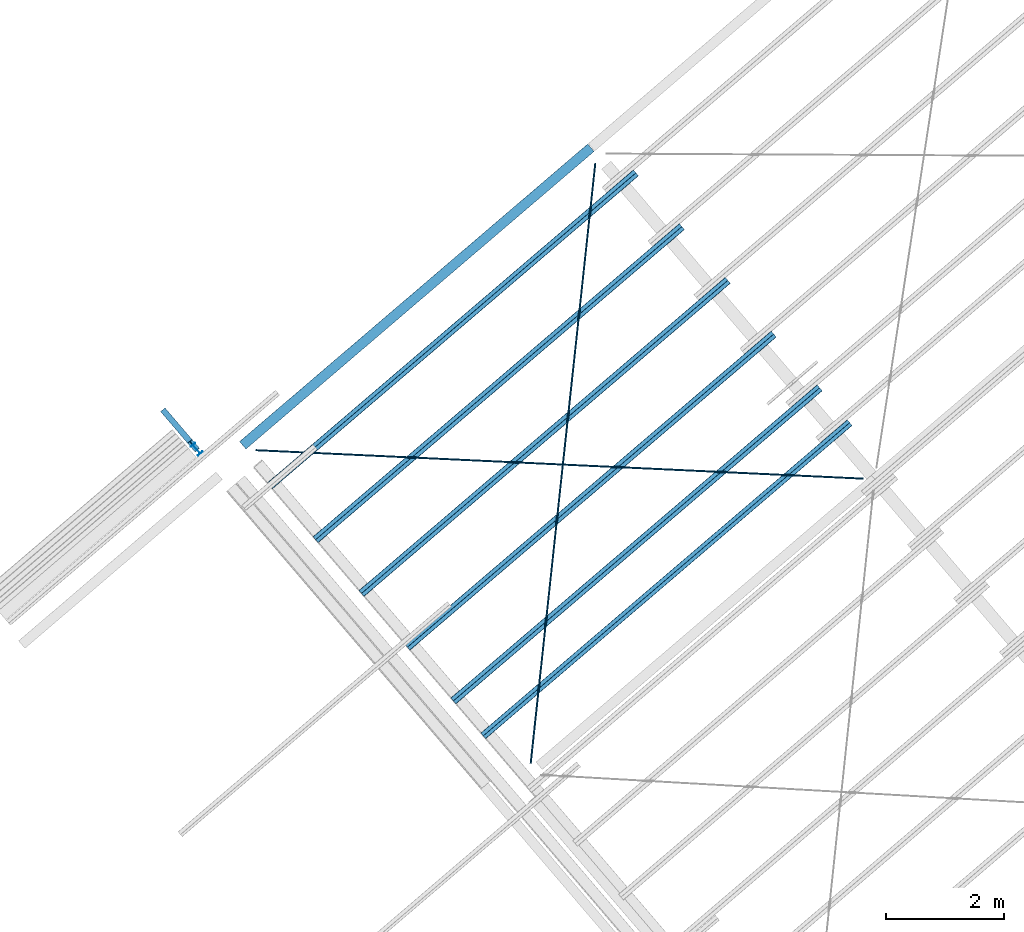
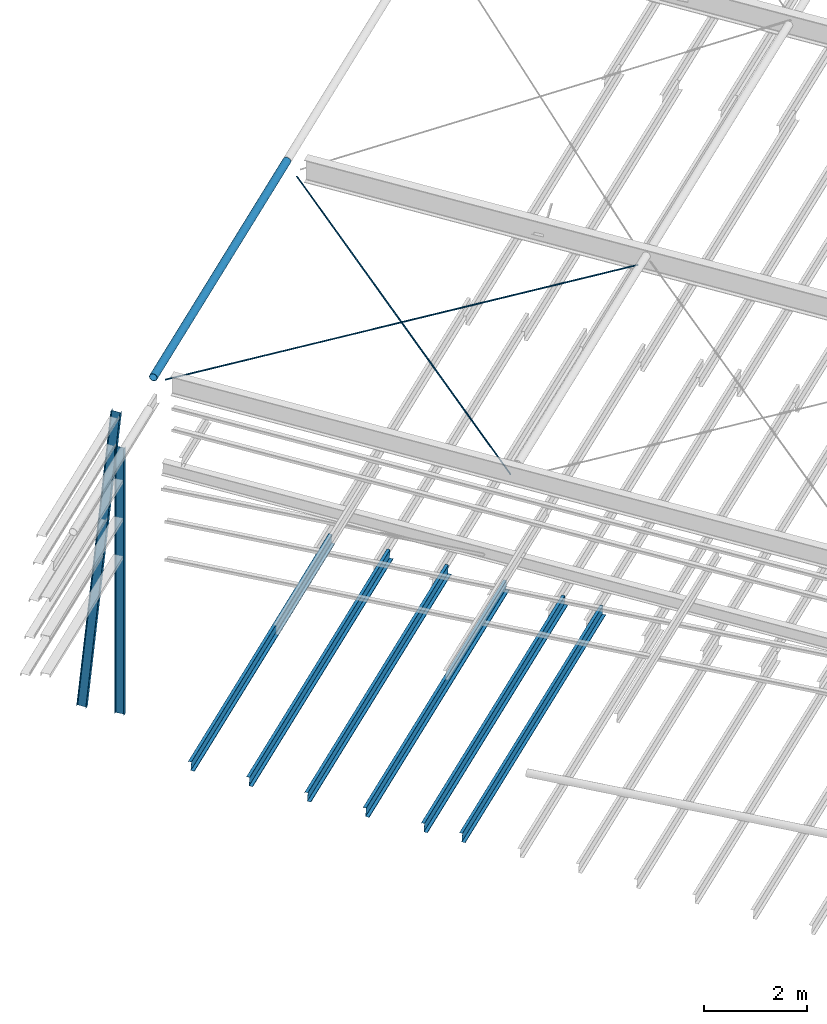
# One storey, part 9 of 25: 11 beams, 2 elements without a shape of their own.
"""IFC2X3 building model written with IfcOpenShell, lengths in millimetres."""

import ifcopenshell
import ifcopenshell.guid

model = None  # the IFC model being written
_history = None  # IfcOwnerHistory: only IFC2X3 demands one
_inside = {}  # id of a spatial element -> (the spatial element, [elements in it])
_under = {}  # id of a project, library or spatial element -> (it, [spatial elements below it])
_declared = {}  # id of a project -> (the project, [libraries it declares])
_typed = {}  # id of a type object -> (the type object, [elements of that type])
_made_of = {}  # id of a material, layer set ... -> (it, [elements and type objects made of it])


def new_model(schema):
    """Start an empty IFC model of exactly this schema.

    Asked for "IFC4X3", IfcOpenShell would pick the latest addendum, in which some entities
    have other attributes; the version numbers below select the first issue.
    IFC2X3 requires an IfcOwnerHistory on every rooted entity: one is made here for all.
    """
    global model, _history
    if schema == "IFC4X3":
        model = ifcopenshell.file(schema_version=(4, 3, 0, 0))
    else:
        model = ifcopenshell.file(schema=schema)
    _inside.clear()
    _under.clear()
    _declared.clear()
    _typed.clear()
    _made_of.clear()
    _history = None
    if model.schema == "IFC2X3":
        org = make("IfcOrganization", Name="unknown")
        user = make(
            "IfcPersonAndOrganization",
            ThePerson=make("IfcPerson", FamilyName="unknown"),
            TheOrganization=org,
        )
        app = make(
            "IfcApplication",
            ApplicationDeveloper=org,
            Version="unknown",
            ApplicationFullName="unknown",
            ApplicationIdentifier="unknown",
        )
        _history = make(
            "IfcOwnerHistory",
            OwningUser=user,
            OwningApplication=app,
            ChangeAction="ADDED",
            CreationDate=0,
        )
    return model


def make(cls, **values):
    """One entity of the class cls with the attributes given. An attribute that is None is left unset."""
    return model.create_entity(
        cls, **{name: value for name, value in values.items() if value is not None}
    )


def entity(cls, *values):
    """Any entity or typed value of the class cls, its attributes in the order of the schema. None: left unset."""
    e = model.create_entity(cls)
    for i, value in enumerate(values):
        if value is not None:
            e[i] = value
    return e


def rooted(cls, **values):
    """An entity with a GlobalId (a new one), such as an element, a storey or a relation."""
    return make(cls, GlobalId=ifcopenshell.guid.new(), OwnerHistory=_history, **values)


def si_unit(unit_type, name, prefix=None):
    """IfcSIUnit, for example si_unit("LENGTHUNIT", "METRE", prefix="MILLI")."""
    return make("IfcSIUnit", UnitType=unit_type, Prefix=prefix, Name=name)


def converted_unit(unit_type, name, factor, base, dimensions=None, offset=None):
    """IfcConversionBasedUnit, such as the inch: factor (a typed value) times the base unit."""
    return make(
        "IfcConversionBasedUnit"
        if offset is None
        else "IfcConversionBasedUnitWithOffset",
        ConversionOffset=offset,
        Dimensions=None
        if dimensions is None
        else entity("IfcDimensionalExponents", *dimensions),
        UnitType=unit_type,
        Name=name,
        ConversionFactor=make(
            "IfcMeasureWithUnit", ValueComponent=factor, UnitComponent=base
        ),
    )


def derived_unit(unit_type, elements):
    """IfcDerivedUnit: a product of units, each with its exponent."""
    return make(
        "IfcDerivedUnit",
        Elements=[
            make("IfcDerivedUnitElement", Unit=unit, Exponent=power)
            for unit, power in elements
        ],
        UnitType=unit_type,
    )


def assignment(units):
    """IfcUnitAssignment: the units of a project."""
    return None if units is None else make("IfcUnitAssignment", Units=units)


def point(xyz):
    """IfcCartesianPoint."""
    return None if xyz is None else make("IfcCartesianPoint", Coordinates=xyz)


def direction(xyz):
    """IfcDirection."""
    return None if xyz is None else make("IfcDirection", DirectionRatios=xyz)


def frame(location, z_axis=None, x_axis=None):
    """IfcAxis2Placement3D, a coordinate frame: its origin and axes. An axis left out is left unset."""
    return make(
        "IfcAxis2Placement3D",
        Location=point(location),
        Axis=direction(z_axis),
        RefDirection=direction(x_axis),
    )


def frame_2d(location, x_axis=None):
    """IfcAxis2Placement2D, a coordinate frame in the plane: its origin and x axis."""
    return make(
        "IfcAxis2Placement2D", Location=point(location), RefDirection=direction(x_axis)
    )


def origin():
    """The frame at (0, 0, 0) with its axes left unset."""
    return frame((0.0, 0.0, 0.0))


def origin_2d_with_axis():
    """The frame at (0, 0) in the plane with the x axis (1, 0) written out."""
    return frame_2d((0.0, 0.0), x_axis=(1.0, 0.0))


def place(relative_to, where):
    """IfcLocalPlacement: puts the frame where relative to a parent placement (None: the world)."""
    return make(
        "IfcLocalPlacement", PlacementRelTo=relative_to, RelativePlacement=where
    )


def context(
    kind, dimensions, precision=None, world=None, true_north=None, identifier=None
):
    """IfcGeometricRepresentationContext, for example the 3D "Model" context."""
    return make(
        "IfcGeometricRepresentationContext",
        ContextIdentifier=identifier,
        ContextType=kind,
        CoordinateSpaceDimension=dimensions,
        Precision=precision,
        WorldCoordinateSystem=world,
        TrueNorth=true_north,
    )


def subcontext(parent, identifier, kind, view, scale=None):
    """IfcGeometricRepresentationSubContext, for example "Body" below "Model"."""
    return make(
        "IfcGeometricRepresentationSubContext",
        ContextIdentifier=identifier,
        ContextType=kind,
        ParentContext=parent,
        TargetScale=scale,
        TargetView=view,
    )


def project(units=None, contexts=None):
    """IfcProject with its units and contexts."""
    return rooted(
        "IfcProject",
        Name="project",
        RepresentationContexts=contexts,
        UnitsInContext=assignment(units),
    )


def spatial(cls, under=None, at=None, **own):
    """A site, building, storey or space (cls), placed at a placement, below another one or the project."""
    s = rooted(cls, ObjectPlacement=at, **own)
    if under is not None:
        _under.setdefault(under.id(), (under, []))[1].append(s)
    return s


def polyline(points):
    """IfcPolyline through the points."""
    return make("IfcPolyline", Points=[point(p) for p in points])


def circle_curve(where, radius):
    """IfcCircle in the frame where."""
    return make("IfcCircle", Position=where, Radius=radius)


def parameter(value):
    """IfcParameterValue: where a trimmed curve begins or ends, as a parameter of its basis curve."""
    return model.create_entity("IfcParameterValue", value)


def trimmed(basis, trim1, trim2, sense, master):
    """IfcTrimmedCurve: the piece of a basis curve between two trims."""
    return make(
        "IfcTrimmedCurve",
        BasisCurve=basis,
        Trim1=trim1,
        Trim2=trim2,
        SenseAgreement=sense,
        MasterRepresentation=master,
    )


def segment(curve, same_sense, transition):
    """IfcCompositeCurveSegment."""
    return make(
        "IfcCompositeCurveSegment",
        Transition=transition,
        SameSense=same_sense,
        ParentCurve=curve,
    )


def composite_curve(segments, self_intersect=None):
    """IfcCompositeCurve: segments joined end to end."""
    return make("IfcCompositeCurve", Segments=segments, SelfIntersect=self_intersect)


def profile(cls, at=None, kind="AREA", **sizes):
    """A parametric profile (cls). Its sizes go by their IFC names, for example OverallWidth=200.0."""
    return make(cls, ProfileType=kind, Position=at, **sizes)


def circle(**sizes):
    """IfcCircleProfileDef."""
    return profile("IfcCircleProfileDef", **sizes)


def hollow_circle(**sizes):
    """IfcCircleHollowProfileDef."""
    return profile("IfcCircleHollowProfileDef", **sizes)


def i_section(**sizes):
    """IfcIShapeProfileDef."""
    return profile("IfcIShapeProfileDef", **sizes)


def outline(outer, holes=None, kind="AREA"):
    """IfcArbitraryClosedProfileDef: a profile drawn as a closed curve; with holes, ...WithVoids."""
    if holes is None:
        return make("IfcArbitraryClosedProfileDef", ProfileType=kind, OuterCurve=outer)
    return make(
        "IfcArbitraryProfileDefWithVoids",
        ProfileType=kind,
        OuterCurve=outer,
        InnerCurves=holes,
    )


def extrude(swept, where, along, depth):
    """IfcExtrudedAreaSolid: the profile swept, set in the frame where, extruded along a direction by depth."""
    return make(
        "IfcExtrudedAreaSolid",
        SweptArea=swept,
        Position=where,
        ExtrudedDirection=direction(along),
        Depth=depth,
    )


def shape(context_of_items, identifier, shape_type, items):
    """IfcShapeRepresentation: the items that make up one representation, for example the "Body"."""
    return make(
        "IfcShapeRepresentation",
        ContextOfItems=context_of_items,
        RepresentationIdentifier=identifier,
        RepresentationType=shape_type,
        Items=items,
    )


def material(Name=None, Category=None):
    """IfcMaterial."""
    return make("IfcMaterial", Name=Name, Category=Category)


def made_of(thing, what):
    """Note that an element or type object is made of a material, layer set ...; save() writes the relation."""
    if what is not None:
        _made_of.setdefault(what.id(), (what, []))[1].append(thing)
    return thing


def type_object(cls, material=None, **own):
    """A type object (cls), such as IfcWallType, which elements share."""
    return made_of(rooted(cls, **own), material)


def element(
    cls,
    number,
    at=None,
    inside=None,
    cuts=None,
    type_object=None,
    material=None,
    context=None,
    identifier="Body",
    shape_type=None,
    held_by="IfcProductDefinitionShape",
    body=None,
    shapes=None,
    **own,
):
    """One element of the class cls, such as IfcWall. Its Tag is "e" and its number.

    at: its placement. inside: the storey or other place that contains it. cuts: it is an
    opening in that element (IfcRelVoidsElement). A single representation is given by context,
    identifier, shape_type and body (its items); several are given by shapes. held_by: the class
    of the entity that holds the representations. save() writes the other relations.
    """
    e = rooted(cls, Tag="e%d" % number, ObjectPlacement=at, **own)
    if body is not None:
        shapes = [shape(context, identifier, shape_type, body)]
    if shapes is not None:
        e.Representation = make(held_by, Representations=shapes)
    if inside is not None:
        _inside.setdefault(inside.id(), (inside, []))[1].append(e)
    if cuts is not None:
        rooted(
            "IfcRelVoidsElement", RelatingBuildingElement=cuts, RelatedOpeningElement=e
        )
    if type_object is not None:
        _typed.setdefault(type_object.id(), (type_object, []))[1].append(e)
    return made_of(e, material)


def aggregate(whole, parts):
    """IfcRelAggregates: a whole, such as a stair, and the parts it consists of."""
    return rooted("IfcRelAggregates", RelatingObject=whole, RelatedObjects=parts)


def save(model, path):
    """Write the relations noted so far, then the file.

    IfcRelAggregates (storeys below a building ...), IfcRelContainedInSpatialStructure (elements
    in a storey), IfcRelDefinesByType, IfcRelAssociatesMaterial and IfcRelDeclares: one each for
    every whole, place, type object, material and project.
    """
    for whole, parts in _under.values():
        aggregate(whole, parts)
    for where, things in _inside.values():
        rooted(
            "IfcRelContainedInSpatialStructure",
            RelatedElements=things,
            RelatingStructure=where,
        )
    for kind, things in _typed.values():
        rooted("IfcRelDefinesByType", RelatedObjects=things, RelatingType=kind)
    for what, things in _made_of.values():
        rooted("IfcRelAssociatesMaterial", RelatedObjects=things, RelatingMaterial=what)
    for by, libraries in _declared.values():
        rooted("IfcRelDeclares", RelatingContext=by, RelatedDefinitions=libraries)
    model.write(path)


model = new_model("IFC2X3")

# Units and contexts
model_context = context("Model", 3, precision=0.01, world=origin(), true_north=direction((6.123031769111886e-17, 1.0)))
body_context = subcontext(model_context, "Body", "Model", "MODEL_VIEW")
ifc_project = project(units=[si_unit("LENGTHUNIT", "METRE", prefix="MILLI"), si_unit("AREAUNIT", "SQUARE_METRE"), si_unit("VOLUMEUNIT", "CUBIC_METRE"), converted_unit("PLANEANGLEUNIT", "DEGREE", entity("IfcRatioMeasure", 0.017453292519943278), si_unit("PLANEANGLEUNIT", "RADIAN"), dimensions=[0, 0, 0, 0, 0, 0, 0]), si_unit("MASSUNIT", "GRAM", prefix="KILO"), derived_unit("MASSDENSITYUNIT", [(si_unit("MASSUNIT", "GRAM", prefix="KILO"), 1), (si_unit("LENGTHUNIT", "METRE"), -3)]), derived_unit("MOMENTOFINERTIAUNIT", [(si_unit("LENGTHUNIT", "METRE"), 4)]), si_unit("TIMEUNIT", "SECOND"), si_unit("FREQUENCYUNIT", "HERTZ"), si_unit("THERMODYNAMICTEMPERATUREUNIT", "DEGREE_CELSIUS"), derived_unit("THERMALTRANSMITTANCEUNIT", [(si_unit("MASSUNIT", "GRAM", prefix="KILO"), 1), (si_unit("THERMODYNAMICTEMPERATUREUNIT", "KELVIN"), -1), (si_unit("TIMEUNIT", "SECOND"), -3)]), derived_unit("VOLUMETRICFLOWRATEUNIT", [(si_unit("LENGTHUNIT", "METRE"), 3), (si_unit("TIMEUNIT", "SECOND"), -1)]), derived_unit("MASSFLOWRATEUNIT", [(si_unit("MASSUNIT", "GRAM", prefix="KILO"), 1), (si_unit("TIMEUNIT", "SECOND"), -1)]), derived_unit("ROTATIONALFREQUENCYUNIT", [(si_unit("TIMEUNIT", "SECOND"), -1)]), si_unit("ELECTRICCURRENTUNIT", "AMPERE"), si_unit("ELECTRICVOLTAGEUNIT", "VOLT"), si_unit("POWERUNIT", "WATT"), si_unit("FORCEUNIT", "NEWTON", prefix="KILO"), si_unit("ILLUMINANCEUNIT", "LUX"), si_unit("LUMINOUSFLUXUNIT", "LUMEN"), si_unit("LUMINOUSINTENSITYUNIT", "CANDELA"), derived_unit("USERDEFINED", [(si_unit("MASSUNIT", "GRAM", prefix="KILO"), -1), (si_unit("LENGTHUNIT", "METRE"), -2), (si_unit("TIMEUNIT", "SECOND"), 3), (si_unit("LUMINOUSFLUXUNIT", "LUMEN"), 1)]), derived_unit("SOUNDPOWERUNIT", [(si_unit("MASSUNIT", "GRAM", prefix="KILO"), 1), (si_unit("LENGTHUNIT", "METRE"), 2), (si_unit("TIMEUNIT", "SECOND"), -3)]), derived_unit("LINEARVELOCITYUNIT", [(si_unit("LENGTHUNIT", "METRE"), 1), (si_unit("TIMEUNIT", "SECOND"), -1)]), si_unit("PRESSUREUNIT", "PASCAL"), derived_unit("USERDEFINED", [(si_unit("LENGTHUNIT", "METRE"), -2), (si_unit("MASSUNIT", "GRAM", prefix="KILO"), 1), (si_unit("TIMEUNIT", "SECOND"), -2)]), derived_unit("LINEARFORCEUNIT", [(si_unit("MASSUNIT", "GRAM", prefix="KILO"), 1), (si_unit("LENGTHUNIT", "METRE"), 1), (si_unit("TIMEUNIT", "SECOND"), -2), (si_unit("LENGTHUNIT", "METRE"), -1)]), derived_unit("PLANARFORCEUNIT", [(si_unit("MASSUNIT", "GRAM", prefix="KILO"), 1), (si_unit("LENGTHUNIT", "METRE"), 1), (si_unit("TIMEUNIT", "SECOND"), -2), (si_unit("LENGTHUNIT", "METRE"), -2)])], contexts=[model_context])

# Site, building, storey
site_placement = place(None, frame((962.4174930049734, -6014.433753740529, 0.0), z_axis=(0.0, 0.0, 1.0), x_axis=(0.7601792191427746, 0.649713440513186, 0.0)))
site = spatial("IfcSite", under=ifc_project, at=site_placement, Name="Default", CompositionType="ELEMENT")
building_placement = place(site_placement, origin())
building = spatial("IfcBuilding", under=site, at=building_placement, CompositionType="ELEMENT")
storey_placement = place(building_placement, frame((0.0, 0.0, 9200.0)))
storey = spatial("IfcBuildingStorey", under=building, at=storey_placement, Name="TOP OF CEILING", CompositionType="ELEMENT", Elevation=9200.000000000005)

# Beams
ifc_material_1 = material(Name="Metal - Steel - 300 MPa")
beam_type_1 = type_object("IfcBeamType", Name="ADSK_AU_CHS-Circular Hollow Sections (AS 1163_C350):168.3x6.4CHS", PredefinedType="NOTDEFINED")
beam_1_placement = place(storey_placement, frame((154578.96020471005, 3518.47191785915, 4100.295329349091)))
element("IfcBeam", 1, at=beam_1_placement, inside=storey, type_object=beam_type_1, material=ifc_material_1, Name="ADSK_AU_CHS-Circular Hollow Sections (AS 1163_C350):168.3x6.4CHS", ObjectType="ADSK_AU_CHS-Circular Hollow Sections (AS 1163_C350):168.3x6.4CHS", context=body_context, shape_type="SweptSolid", body=[
    extrude(hollow_circle(Radius=84.15000000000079, WallThickness=6.4000000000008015, at=origin_2d_with_axis()), frame((-2.599999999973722, 0.0, -84.15000000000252), z_axis=(1.0, 0.0, 0.0), x_axis=(0.0, 1.0, 0.0)), (0.0, 0.0, 1.0), 7757.500000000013),
])
beam_type_2 = type_object("IfcBeamType", Name="ADSK_AU_Round Bars (AS 3679_1):24ROD", PredefinedType="NOTDEFINED")
beam_2_placement = place(storey_placement, frame((154782.92402116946, -3744.5345413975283, 3300.0), z_axis=(-0.03497033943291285, -0.03299190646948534, 0.9988436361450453), x_axis=(0.7265419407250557, 0.6854381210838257, 0.04807692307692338)))
element("IfcBeam", 2, at=beam_2_placement, inside=storey, type_object=beam_type_2, Name="ADSK_AU_Round Bars (AS 3679_1):24ROD", ObjectType="ADSK_AU_Round Bars (AS 3679_1):24ROD", context=body_context, shape_type="SweptSolid", body=[
    extrude(circle(Radius=12.000000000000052, at=frame_2d((-7.87659206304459e-13, 2.1989557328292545e-12), x_axis=(1.0, 0.0))), frame((0.0, 0.0, -12.0), z_axis=(1.0, 0.0, 0.0), x_axis=(0.0, -1.0, 0.0)), (0.0, 0.0, 1.0), 10230.900000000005),
])
beam_3_placement = place(storey_placement, frame((162199.77871678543, -3739.3469924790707, 3350.0), z_axis=(0.04214468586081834, -0.03958203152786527, 0.9983271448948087), x_axis=(-0.7277014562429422, 0.6834527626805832, 0.057817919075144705)))
element("IfcBeam", 3, at=beam_3_placement, inside=storey, type_object=beam_type_2, Name="ADSK_AU_Round Bars (AS 3679_1):24ROD", ObjectType="ADSK_AU_Round Bars (AS 3679_1):24ROD", context=body_context, shape_type="SweptSolid", body=[
    extrude(circle(Radius=12.000000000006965, at=frame_2d((-3.9466220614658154e-13, -8.669876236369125e-12), x_axis=(1.0, 0.0))), frame((0.0, 0.0, -12.0), z_axis=(1.0, 0.0, 0.0), x_axis=(0.0, -1.0, 0.0)), (0.0, 0.0, 1.0), 10314.000000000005),
])
beam_type_3 = type_object("IfcBeamType", Name="ADSK_AU_UB-Universal Beams (AS 3679_1):200UB18.2", PredefinedType="NOTDEFINED")
beam_4_placement = place(storey_placement, frame((153938.96020471, 4856.021917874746, -3613.0), z_axis=(1.0, 0.0, 0.0), x_axis=(0.0, -0.09805927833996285, 0.9951805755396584)))
element("IfcBeam", 4, at=beam_4_placement, inside=storey, type_object=beam_type_3, Name="ADSK_AU_UB-Universal Beams (AS 3679_1):200UB18.2", ObjectType="ADSK_AU_UB-Universal Beams (AS 3679_1):200UB18.2", context=body_context, shape_type="SweptSolid", body=[
    extrude(i_section(OverallWidth=98.99999999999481, OverallDepth=197.99999999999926, WebThickness=4.500000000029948, FlangeThickness=7.000000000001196, FilletRadius=10.999999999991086, at=frame_2d((1.7326584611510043e-11, 1.0871303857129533e-12), x_axis=(1.0, 0.0))), frame((0.012031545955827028, 99.0, 0.0), z_axis=(1.0, 0.0, 0.0), x_axis=(0.0, 0.0, -1.0)), (0.0, 0.0, 1.0), 7163.500000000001),
])
beam_5_placement = place(storey_placement, frame((153938.96020470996, 4075.571917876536, -3813.0), z_axis=(1.0, 0.0, 0.0), x_axis=(0.0, 0.0, 1.0)))
element("IfcBeam", 5, at=beam_5_placement, inside=storey, type_object=beam_type_3, Name="ADSK_AU_UB-Universal Beams (AS 3679_1):200UB18.2", ObjectType="ADSK_AU_UB-Universal Beams (AS 3679_1):200UB18.2", context=body_context, shape_type="SweptSolid", body=[
    extrude(i_section(OverallWidth=99.0000000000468, OverallDepth=197.99999999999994, WebThickness=4.500000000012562, FlangeThickness=7.000000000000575, FilletRadius=10.99999999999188, at=frame_2d((2.5988100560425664e-11, 1.0871303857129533e-12), x_axis=(1.0, 0.0))), frame((200.0, 99.0, 0.0), z_axis=(1.0, 0.0, 0.0), x_axis=(0.0, 0.0, -1.0)), (0.0, 0.0, 1.0), 6299.99999999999),
])

# Assembly, beam
assembly_1_placement = place(storey_placement, origin())
assembly_1 = element("IfcElementAssembly", 6, at=assembly_1_placement, inside=storey, Name="Structural Beam System:Structural Beam System 1", ObjectType="Structural Beam System:Structural Beam System 1", AssemblyPlace="NOTDEFINED", PredefinedType="BEAM_GRID")
ifc_material_2 = material(Name="Metal - Steel - 345 MPa")
beam_type_4 = type_object("IfcBeamType", Name="ADSK_AU_Light Gauge-Zeds:Z20015", PredefinedType="NOTDEFINED")
beam_6_placement = place(building_placement, frame((162638.96020471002, -2868.0522889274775, 3989.4546361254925), z_axis=(0.0, 0.0, 1.0), x_axis=(-1.0, 0.0, 0.0)))
beam_6 = element("IfcBeam", 7, at=beam_6_placement, type_object=beam_type_4, material=ifc_material_2, Name="ADSK_AU_Light Gauge-Zeds:Z20015", ObjectType="ADSK_AU_Light Gauge-Zeds:Z20015", context=body_context, shape_type="SweptSolid", body=[
    extrude(outline(composite_curve([segment(polyline([(100.0, 1.0), (100.0, -69.0)]), True, "CONTINUOUS"), segment(trimmed(circle_curve(frame_2d((98.0, -69.0), x_axis=(0.0, -1.0)), 2.000000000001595), [parameter(0.0)], [parameter(89.99999999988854)], True, "PARAMETER"), False, "CONTINUOUS"), segment(polyline([(98.0, -71.0), (81.49999999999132, -71.0)]), True, "CONTINUOUS"), segment(polyline([(81.49999999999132, -71.0), (81.49999999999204, -72.50000000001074)]), True, "CONTINUOUS"), segment(polyline([(81.4999999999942, -72.5000000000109), (98.0, -72.50000000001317)]), True, "CONTINUOUS"), segment(trimmed(circle_curve(frame_2d((98.0, -69.0), x_axis=(1.0, 0.0)), 3.500000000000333), [parameter(270.0000000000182)], [parameter(0.0)], True, "PARAMETER"), True, "CONTINUOUS"), segment(polyline([(101.49999999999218, -69.0), (101.5000000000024, 1.0)]), True, "CONTINUOUS"), segment(trimmed(circle_curve(frame_2d((98.0, 1.0), x_axis=(0.0, 1.0)), 3.500000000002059), [parameter(270.0000000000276)], [parameter(0.0)], True, "PARAMETER"), True, "CONTINUOUS"), segment(polyline([(98.0, 4.499999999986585), (-98.0, 4.500000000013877)]), True, "CONTINUOUS"), segment(trimmed(circle_curve(frame_2d((-98.0, 6.500000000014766), x_axis=(-1.0, 0.0)), 2.0000000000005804), [parameter(0.0)], [parameter(89.99999999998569)], True, "PARAMETER"), False, "CONTINUOUS"), segment(polyline([(-100.0, 6.500000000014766), (-100.0, 64.0)]), True, "CONTINUOUS"), segment(trimmed(circle_curve(frame_2d((-98.0, 64.0), x_axis=(0.0, 1.0)), 2.000000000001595), [parameter(0.0)], [parameter(89.99999999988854)], True, "PARAMETER"), False, "CONTINUOUS"), segment(polyline([(-98.0, 66.0), (-81.49999999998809, 66.0)]), True, "CONTINUOUS"), segment(polyline([(-81.49999999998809, 66.0), (-81.4999999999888, 67.50000000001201)]), True, "CONTINUOUS"), segment(polyline([(-81.49999999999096, 67.50000000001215), (-98.0, 67.50000000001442)]), True, "CONTINUOUS"), segment(trimmed(circle_curve(frame_2d((-98.0, 64.0), x_axis=(-1.0, 0.0)), 3.5000000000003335), [parameter(270.0000000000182)], [parameter(0.0)], True, "PARAMETER"), True, "CONTINUOUS"), segment(polyline([(-101.49999999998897, 64.0), (-101.49999999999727, 6.500000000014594)]), True, "CONTINUOUS"), segment(trimmed(circle_curve(frame_2d((-98.0, 6.500000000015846), x_axis=(0.0, -1.0)), 3.5000000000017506), [parameter(270.0000000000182)], [parameter(0.0)], True, "PARAMETER"), True, "CONTINUOUS"), segment(polyline([(-98.0, 3.0), (98.0, 3.0)]), True, "CONTINUOUS"), segment(trimmed(circle_curve(frame_2d((98.0, 1.0), x_axis=(1.0, 0.0)), 2.0000000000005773), [parameter(0.0)], [parameter(89.99999999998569)], True, "PARAMETER"), False, "CONTINUOUS")], self_intersect=False)), frame((0.013129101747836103, -2.591243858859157, -101.56665523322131), z_axis=(-1.0, 0.0, 0.0), x_axis=(0.0, -0.06975647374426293, -0.9975640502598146)), (0.0, 0.0, -1.0), 8164.0000000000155),
])
aggregate(assembly_1, [beam_6])

# Assembly, beams
assembly_2_placement = place(storey_placement, origin())
assembly_2 = element("IfcElementAssembly", 8, at=assembly_2_placement, inside=storey, Name="Structural Beam System:Structural Beam System 1", ObjectType="Structural Beam System:Structural Beam System 1", AssemblyPlace="NOTDEFINED", PredefinedType="BEAM_GRID")
ifc_material_3 = material(Name="Metal - Light Gauge")
beam_type_5 = type_object("IfcBeamType", Name="ADSK_AU_Light Gauge-Zeds:Z20024", PredefinedType="NOTDEFINED")
beam_7_placement = place(building_placement, frame((162636.46020471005, 2700.2090561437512, 4378.8254000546), z_axis=(0.0, 0.0, 1.0), x_axis=(-1.0, 0.0, 0.0)))
beam_7 = element("IfcBeam", 9, at=beam_7_placement, type_object=beam_type_5, material=ifc_material_3, Name="ADSK_AU_Light Gauge-Zeds:Z20024", ObjectType="ADSK_AU_Light Gauge-Zeds:Z20024", context=body_context, shape_type="SweptSolid", body=[
    extrude(outline(composite_curve([segment(polyline([(99.10000000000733, 1.0299999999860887), (99.09999999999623, -71.67000000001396)]), True, "CONTINUOUS"), segment(trimmed(circle_curve(frame_2d((97.09999999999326, -71.67000000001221), x_axis=(0.0, -1.0)), 2.000000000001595), [parameter(0.0)], [parameter(89.99999999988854)], True, "PARAMETER"), False, "CONTINUOUS"), segment(polyline([(97.09999999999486, -73.67000000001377), (79.49999999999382, -73.67000000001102)]), True, "CONTINUOUS"), segment(polyline([(79.49999999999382, -73.67000000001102), (79.49999999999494, -76.07000000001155)]), True, "CONTINUOUS"), segment(polyline([(79.49999999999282, -76.07000000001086), (97.09999999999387, -76.07000000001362)]), True, "CONTINUOUS"), segment(trimmed(circle_curve(frame_2d((97.09999999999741, -71.6700000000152), x_axis=(1.0, 0.0)), 4.399999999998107), [parameter(269.99999999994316)], [parameter(0.0)], True, "PARAMETER"), True, "CONTINUOUS"), segment(polyline([(101.49999999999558, -71.67000000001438), (101.50000000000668, 1.0299999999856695)]), True, "CONTINUOUS"), segment(trimmed(circle_curve(frame_2d((97.10000000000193, 1.0299999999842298), x_axis=(0.0, 1.0)), 4.4000000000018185), [parameter(270.0000000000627)], [parameter(0.0)], True, "PARAMETER"), True, "CONTINUOUS"), segment(polyline([(97.10000000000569, 5.429999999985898), (-97.09999999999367, 5.430000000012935)]), True, "CONTINUOUS"), segment(trimmed(circle_curve(frame_2d((-97.09999999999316, 7.430000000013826), x_axis=(-1.0, 0.0)), 2.0000000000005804), [parameter(0.0)], [parameter(89.99999999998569)], True, "PARAMETER"), False, "CONTINUOUS"), segment(polyline([(-99.0999999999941, 7.430000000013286), (-99.09999999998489, 66.03000000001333)]), True, "CONTINUOUS"), segment(trimmed(circle_curve(frame_2d((-97.09999999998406, 66.03000000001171), x_axis=(0.0, 1.0)), 2.000000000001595), [parameter(0.0)], [parameter(89.99999999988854)], True, "PARAMETER"), False, "CONTINUOUS"), segment(polyline([(-97.09999999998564, 68.0300000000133), (-79.49999999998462, 68.03000000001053)]), True, "CONTINUOUS"), segment(polyline([(-79.4999999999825, 68.03000000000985), (-79.49999999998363, 70.4300000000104)]), True, "CONTINUOUS"), segment(polyline([(-79.49999999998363, 70.4300000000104), (-97.09999999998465, 70.43000000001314)]), True, "CONTINUOUS"), segment(trimmed(circle_curve(frame_2d((-97.0999999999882, 66.03000000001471), x_axis=(-1.0, 0.0)), 4.3999999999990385), [parameter(269.99999999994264)], [parameter(0.0)], True, "PARAMETER"), True, "CONTINUOUS"), segment(polyline([(-101.49999999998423, 66.03000000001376), (-101.49999999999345, 7.430000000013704)]), True, "CONTINUOUS"), segment(trimmed(circle_curve(frame_2d((-97.09999999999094, 7.430000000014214), x_axis=(0.0, -1.0)), 4.400000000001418), [parameter(270.0000000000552)], [parameter(0.0)], True, "PARAMETER"), True, "CONTINUOUS"), segment(polyline([(-97.09999999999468, 3.030000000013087), (97.1000000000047, 3.029999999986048)]), True, "CONTINUOUS"), segment(trimmed(circle_curve(frame_2d((97.10000000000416, 1.0299999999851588), x_axis=(1.0, 0.0)), 2.0000000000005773), [parameter(0.0)], [parameter(89.99999999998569)], True, "PARAMETER"), False, "CONTINUOUS")], self_intersect=False)), frame((0.263129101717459, -1.6635092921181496, -101.6315287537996), z_axis=(-1.0, 0.0, 0.0), x_axis=(0.0, -0.06975647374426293, -0.9975640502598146)), (0.0, 0.0, -1.0), 8161.0000000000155),
])
beam_8_placement = place(building_placement, frame((162636.46020471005, 1503.1321958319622, 4295.117631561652), z_axis=(0.0, 0.0, 1.0), x_axis=(-1.0, 0.0, 0.0)))
beam_8 = element("IfcBeam", 10, at=beam_8_placement, type_object=beam_type_5, material=ifc_material_3, Name="ADSK_AU_Light Gauge-Zeds:Z20024", ObjectType="ADSK_AU_Light Gauge-Zeds:Z20024", context=body_context, shape_type="SweptSolid", body=[
    extrude(outline(composite_curve([segment(polyline([(99.10000000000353, 1.0299999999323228), (99.09999999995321, -71.67000000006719)]), True, "CONTINUOUS"), segment(trimmed(circle_curve(frame_2d((97.09999999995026, -71.67000000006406), x_axis=(0.0, -1.0)), 2.0000000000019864), [parameter(0.0)], [parameter(89.99999999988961)], True, "PARAMETER"), False, "CONTINUOUS"), segment(polyline([(97.09999999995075, -73.67000000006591), (79.49999999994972, -73.67000000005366)]), True, "CONTINUOUS"), segment(polyline([(79.49999999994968, -73.6700000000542), (79.49999999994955, -76.0700000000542)]), True, "CONTINUOUS"), segment(polyline([(79.4999999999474, -76.07000000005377), (97.09999999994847, -76.07000000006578)]), True, "CONTINUOUS"), segment(trimmed(circle_curve(frame_2d((97.0999999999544, -71.67000000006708), x_axis=(1.0, 0.0)), 4.399999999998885), [parameter(269.9999999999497)], [parameter(0.0)], True, "PARAMETER"), True, "CONTINUOUS"), segment(polyline([(101.49999999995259, -71.67000000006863), (101.50000000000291, 1.0299999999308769)]), True, "CONTINUOUS"), segment(trimmed(circle_curve(frame_2d((97.0999999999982, 1.0299999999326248), x_axis=(0.0, 1.0)), 4.400000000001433), [parameter(270.0000000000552)], [parameter(0.0)], True, "PARAMETER"), True, "CONTINUOUS"), segment(polyline([(97.10000000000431, 5.429999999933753), (-97.09999999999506, 5.430000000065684)]), True, "CONTINUOUS"), segment(trimmed(circle_curve(frame_2d((-97.09999999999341, 7.430000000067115), x_axis=(-1.0, 0.0)), 2.0000000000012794), [parameter(0.0)], [parameter(89.9999999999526)], True, "PARAMETER"), False, "CONTINUOUS"), segment(polyline([(-99.0999999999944, 7.430000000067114), (-99.09999999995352, 66.03000000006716)]), True, "CONTINUOUS"), segment(trimmed(circle_curve(frame_2d((-97.09999999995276, 66.03000000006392), x_axis=(0.0, 1.0)), 2.0000000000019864), [parameter(0.0)], [parameter(89.99999999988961)], True, "PARAMETER"), False, "CONTINUOUS"), segment(polyline([(-97.09999999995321, 68.03000000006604), (-79.4999999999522, 68.03000000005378)]), True, "CONTINUOUS"), segment(polyline([(-79.49999999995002, 68.0300000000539), (-79.49999999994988, 70.4300000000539)]), True, "CONTINUOUS"), segment(polyline([(-79.49999999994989, 70.43000000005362), (-97.09999999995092, 70.43000000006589)]), True, "CONTINUOUS"), segment(trimmed(circle_curve(frame_2d((-97.09999999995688, 66.03000000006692), x_axis=(-1.0, 0.0)), 4.399999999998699), [parameter(269.9999999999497)], [parameter(0.0)], True, "PARAMETER"), True, "CONTINUOUS"), segment(polyline([(-101.49999999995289, 66.03000000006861), (-101.49999999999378, 7.43000000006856)]), True, "CONTINUOUS"), segment(trimmed(circle_curve(frame_2d((-97.09999999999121, 7.430000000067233), x_axis=(0.0, -1.0)), 4.400000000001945), [parameter(270.0000000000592)], [parameter(0.0)], True, "PARAMETER"), True, "CONTINUOUS"), segment(polyline([(-97.09999999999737, 3.030000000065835), (97.10000000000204, 3.029999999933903)]), True, "CONTINUOUS"), segment(trimmed(circle_curve(frame_2d((97.10000000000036, 1.0299999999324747), x_axis=(1.0, 0.0)), 2.0000000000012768), [parameter(0.0)], [parameter(89.9999999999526)], True, "PARAMETER"), False, "CONTINUOUS")], self_intersect=False)), frame((0.263129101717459, -1.6635092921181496, -101.63152875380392), z_axis=(-1.0, 0.0, 0.0), x_axis=(0.0, -0.06975647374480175, -0.997564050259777)), (0.0, 0.0, -1.0), 8161.000000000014),
])
beam_9_placement = place(building_placement, frame((162636.46020471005, 306.0553355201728, 4211.4098630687), z_axis=(0.0, 0.0, 1.0), x_axis=(-1.0, 0.0, 0.0)))
beam_9 = element("IfcBeam", 11, at=beam_9_placement, type_object=beam_type_5, material=ifc_material_3, Name="ADSK_AU_Light Gauge-Zeds:Z20024", ObjectType="ADSK_AU_Light Gauge-Zeds:Z20024", context=body_context, shape_type="SweptSolid", body=[
    extrude(outline(composite_curve([segment(polyline([(99.10000000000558, 1.0299999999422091), (99.09999999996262, -71.67000000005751)]), True, "CONTINUOUS"), segment(trimmed(circle_curve(frame_2d((97.09999999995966, -71.67000000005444), x_axis=(0.0, -1.0)), 2.000000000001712), [parameter(0.0)], [parameter(89.99999999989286)], True, "PARAMETER"), False, "CONTINUOUS"), segment(polyline([(97.09999999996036, -73.67000000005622), (79.49999999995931, -73.67000000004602)]), True, "CONTINUOUS"), segment(polyline([(79.49999999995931, -73.67000000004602), (79.49999999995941, -76.07000000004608)]), True, "CONTINUOUS"), segment(polyline([(79.49999999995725, -76.07000000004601), (97.09999999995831, -76.07000000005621)]), True, "CONTINUOUS"), segment(trimmed(circle_curve(frame_2d((97.09999999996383, -71.67000000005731), x_axis=(1.0, 0.0)), 4.399999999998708), [parameter(269.999999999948)], [parameter(0.0)], True, "PARAMETER"), True, "CONTINUOUS"), segment(polyline([(101.49999999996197, -71.67000000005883), (101.50000000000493, 1.0299999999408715)]), True, "CONTINUOUS"), segment(trimmed(circle_curve(frame_2d((97.10000000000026, 1.0299999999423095), x_axis=(0.0, 1.0)), 4.4000000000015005), [parameter(270.000000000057)], [parameter(0.0)], True, "PARAMETER"), True, "CONTINUOUS"), segment(polyline([(97.10000000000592, 5.4299999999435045), (-97.09999999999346, 5.43000000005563)]), True, "CONTINUOUS"), segment(trimmed(circle_curve(frame_2d((-97.09999999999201, 7.430000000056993), x_axis=(-1.0, 0.0)), 2.000000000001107), [parameter(0.0)], [parameter(89.99999999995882)], True, "PARAMETER"), False, "CONTINUOUS"), segment(polyline([(-99.09999999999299, 7.430000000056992), (-99.09999999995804, 66.03000000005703)]), True, "CONTINUOUS"), segment(trimmed(circle_curve(frame_2d((-97.09999999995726, 66.03000000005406), x_axis=(0.0, 1.0)), 2.0000000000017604), [parameter(0.0)], [parameter(89.99999999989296)], True, "PARAMETER"), False, "CONTINUOUS"), segment(polyline([(-97.09999999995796, 68.03000000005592), (-79.49999999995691, 68.0300000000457)]), True, "CONTINUOUS"), segment(polyline([(-79.49999999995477, 68.03000000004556), (-79.49999999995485, 70.4300000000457)]), True, "CONTINUOUS"), segment(polyline([(-79.49999999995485, 70.4300000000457), (-97.09999999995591, 70.4300000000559)]), True, "CONTINUOUS"), segment(trimmed(circle_curve(frame_2d((-97.09999999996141, 66.03000000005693), x_axis=(-1.0, 0.0)), 4.399999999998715), [parameter(269.99999999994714)], [parameter(0.0)], True, "PARAMETER"), True, "CONTINUOUS"), segment(polyline([(-101.4999999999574, 66.03000000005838), (-101.49999999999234, 7.430000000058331)]), True, "CONTINUOUS"), segment(trimmed(circle_curve(frame_2d((-97.09999999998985, 7.43000000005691), x_axis=(0.0, -1.0)), 4.400000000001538), [parameter(270.00000000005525)], [parameter(0.0)], True, "PARAMETER"), True, "CONTINUOUS"), segment(polyline([(-97.09999999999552, 3.0300000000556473), (97.10000000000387, 3.02999999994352)]), True, "CONTINUOUS"), segment(trimmed(circle_curve(frame_2d((97.10000000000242, 1.029999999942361), x_axis=(1.0, 0.0)), 2.0000000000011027), [parameter(0.0)], [parameter(89.99999999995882)], True, "PARAMETER"), False, "CONTINUOUS")], self_intersect=False)), frame((0.263129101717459, -1.6635092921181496, -101.63152875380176), z_axis=(-1.0, 0.0, 0.0), x_axis=(0.0, -0.0697564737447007, -0.997564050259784)), (0.0, 0.0, -1.0), 8161.0000000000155),
])
beam_10_placement = place(building_placement, frame((162636.46020471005, -891.0215247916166, 4127.702094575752), z_axis=(0.0, 0.0, 1.0), x_axis=(-1.0, 0.0, 0.0)))
beam_10 = element("IfcBeam", 12, at=beam_10_placement, type_object=beam_type_5, material=ifc_material_3, Name="ADSK_AU_Light Gauge-Zeds:Z20024", ObjectType="ADSK_AU_Light Gauge-Zeds:Z20024", context=body_context, shape_type="SweptSolid", body=[
    extrude(outline(composite_curve([segment(polyline([(99.10000000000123, 1.029999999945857), (99.0999999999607, -71.67000000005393)]), True, "CONTINUOUS"), segment(trimmed(circle_curve(frame_2d((97.09999999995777, -71.67000000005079), x_axis=(0.0, -1.0)), 2.0000000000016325), [parameter(0.0)], [parameter(89.99999999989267)], True, "PARAMETER"), False, "CONTINUOUS"), segment(polyline([(97.09999999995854, -73.67000000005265), (79.49999999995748, -73.67000000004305)]), True, "CONTINUOUS"), segment(polyline([(79.49999999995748, -73.67000000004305), (79.49999999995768, -76.07000000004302)]), True, "CONTINUOUS"), segment(polyline([(79.49999999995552, -76.07000000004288), (97.09999999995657, -76.07000000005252)]), True, "CONTINUOUS"), segment(trimmed(circle_curve(frame_2d((97.09999999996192, -71.67000000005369), x_axis=(1.0, 0.0)), 4.399999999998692), [parameter(269.99999999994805)], [parameter(0.0)], True, "PARAMETER"), True, "CONTINUOUS"), segment(polyline([(101.49999999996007, -71.67000000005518), (101.50000000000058, 1.0299999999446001)]), True, "CONTINUOUS"), segment(trimmed(circle_curve(frame_2d((97.09999999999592, 1.0299999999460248), x_axis=(0.0, 1.0)), 4.400000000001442), [parameter(270.00000000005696)], [parameter(0.0)], True, "PARAMETER"), True, "CONTINUOUS"), segment(polyline([(97.10000000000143, 5.429999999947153), (-97.09999999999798, 5.430000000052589)]), True, "CONTINUOUS"), segment(trimmed(circle_curve(frame_2d((-97.09999999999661, 7.430000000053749), x_axis=(-1.0, 0.0)), 2.0000000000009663), [parameter(0.0)], [parameter(89.99999999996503)], True, "PARAMETER"), False, "CONTINUOUS"), segment(polyline([(-99.09999999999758, 7.430000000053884), (-99.09999999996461, 66.03000000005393)]), True, "CONTINUOUS"), segment(trimmed(circle_curve(frame_2d((-97.09999999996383, 66.0300000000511), x_axis=(0.0, 1.0)), 2.0000000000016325), [parameter(0.0)], [parameter(89.99999999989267)], True, "PARAMETER"), False, "CONTINUOUS"), segment(polyline([(-97.09999999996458, 68.03000000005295), (-79.49999999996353, 68.03000000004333)]), True, "CONTINUOUS"), segment(polyline([(-79.49999999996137, 68.03000000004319), (-79.49999999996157, 70.43000000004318)]), True, "CONTINUOUS"), segment(polyline([(-79.49999999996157, 70.43000000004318), (-97.09999999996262, 70.43000000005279)]), True, "CONTINUOUS"), segment(trimmed(circle_curve(frame_2d((-97.09999999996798, 66.03000000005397), x_axis=(-1.0, 0.0)), 4.3999999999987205), [parameter(269.99999999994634)], [parameter(0.0)], True, "PARAMETER"), True, "CONTINUOUS"), segment(polyline([(-101.49999999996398, 66.03000000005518), (-101.49999999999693, 7.4300000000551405)]), True, "CONTINUOUS"), segment(trimmed(circle_curve(frame_2d((-97.09999999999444, 7.430000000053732), x_axis=(0.0, -1.0)), 4.400000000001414), [parameter(270.00000000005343)], [parameter(0.0)], True, "PARAMETER"), True, "CONTINUOUS"), segment(polyline([(-97.09999999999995, 3.0300000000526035), (97.09999999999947, 3.029999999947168)]), True, "CONTINUOUS"), segment(trimmed(circle_curve(frame_2d((97.09999999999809, 1.0299999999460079), x_axis=(1.0, 0.0)), 2.000000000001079), [parameter(0.0)], [parameter(89.99999999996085)], True, "PARAMETER"), False, "CONTINUOUS")], self_intersect=False)), frame((0.263129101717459, -1.6635092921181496, -101.6315287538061), z_axis=(-1.0, 0.0, 0.0), x_axis=(0.0, -0.06975647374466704, -0.9975640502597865)), (0.0, 0.0, -1.0), 8161.000000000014),
])
beam_11_placement = place(building_placement, frame((162636.46020471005, -2088.0983851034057, 4043.994326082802), z_axis=(0.0, 0.0, 1.0), x_axis=(-1.0, 0.0, 0.0)))
beam_11 = element("IfcBeam", 13, at=beam_11_placement, type_object=beam_type_5, material=ifc_material_3, Name="ADSK_AU_Light Gauge-Zeds:Z20024", ObjectType="ADSK_AU_Light Gauge-Zeds:Z20024", context=body_context, shape_type="SweptSolid", body=[
    extrude(outline(composite_curve([segment(polyline([(99.10000000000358, 1.0299999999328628), (99.09999999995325, -71.67000000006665)]), True, "CONTINUOUS"), segment(trimmed(circle_curve(frame_2d((97.0999999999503, -71.67000000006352), x_axis=(0.0, -1.0)), 2.0000000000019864), [parameter(0.0)], [parameter(89.99999999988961)], True, "PARAMETER"), False, "CONTINUOUS"), segment(polyline([(97.0999999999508, -73.67000000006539), (79.49999999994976, -73.67000000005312)]), True, "CONTINUOUS"), segment(polyline([(79.49999999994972, -73.67000000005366), (79.49999999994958, -76.07000000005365)]), True, "CONTINUOUS"), segment(polyline([(79.49999999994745, -76.07000000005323), (97.09999999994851, -76.07000000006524)]), True, "CONTINUOUS"), segment(trimmed(circle_curve(frame_2d((97.09999999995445, -71.67000000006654), x_axis=(1.0, 0.0)), 4.399999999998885), [parameter(269.9999999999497)], [parameter(0.0)], True, "PARAMETER"), True, "CONTINUOUS"), segment(polyline([(101.49999999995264, -71.6700000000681), (101.50000000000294, 1.0299999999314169)]), True, "CONTINUOUS"), segment(trimmed(circle_curve(frame_2d((97.09999999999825, 1.0299999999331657), x_axis=(0.0, 1.0)), 4.400000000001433), [parameter(270.0000000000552)], [parameter(0.0)], True, "PARAMETER"), True, "CONTINUOUS"), segment(polyline([(97.10000000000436, 5.429999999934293), (-97.09999999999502, 5.430000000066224)]), True, "CONTINUOUS"), segment(trimmed(circle_curve(frame_2d((-97.09999999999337, 7.430000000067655), x_axis=(-1.0, 0.0)), 2.0000000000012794), [parameter(0.0)], [parameter(89.9999999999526)], True, "PARAMETER"), False, "CONTINUOUS"), segment(polyline([(-99.09999999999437, 7.430000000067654), (-99.0999999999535, 66.0300000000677)]), True, "CONTINUOUS"), segment(trimmed(circle_curve(frame_2d((-97.09999999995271, 66.03000000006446), x_axis=(0.0, 1.0)), 2.0000000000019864), [parameter(0.0)], [parameter(89.99999999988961)], True, "PARAMETER"), False, "CONTINUOUS"), segment(polyline([(-97.09999999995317, 68.03000000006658), (-79.49999999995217, 68.03000000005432)]), True, "CONTINUOUS"), segment(polyline([(-79.49999999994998, 68.03000000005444), (-79.49999999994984, 70.43000000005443)]), True, "CONTINUOUS"), segment(polyline([(-79.49999999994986, 70.43000000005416), (-97.0999999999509, 70.43000000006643)]), True, "CONTINUOUS"), segment(trimmed(circle_curve(frame_2d((-97.09999999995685, 66.03000000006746), x_axis=(-1.0, 0.0)), 4.399999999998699), [parameter(269.9999999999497)], [parameter(0.0)], True, "PARAMETER"), True, "CONTINUOUS"), segment(polyline([(-101.49999999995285, 66.03000000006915), (-101.49999999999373, 7.4300000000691)]), True, "CONTINUOUS"), segment(trimmed(circle_curve(frame_2d((-97.09999999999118, 7.430000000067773), x_axis=(0.0, -1.0)), 4.400000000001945), [parameter(270.0000000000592)], [parameter(0.0)], True, "PARAMETER"), True, "CONTINUOUS"), segment(polyline([(-97.09999999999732, 3.030000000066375), (97.10000000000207, 3.029999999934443)]), True, "CONTINUOUS"), segment(trimmed(circle_curve(frame_2d((97.1000000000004, 1.0299999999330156), x_axis=(1.0, 0.0)), 2.0000000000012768), [parameter(0.0)], [parameter(89.9999999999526)], True, "PARAMETER"), False, "CONTINUOUS")], self_intersect=False)), frame((0.263129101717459, -1.6635092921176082, -101.63152875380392), z_axis=(-1.0, 0.0, 0.0), x_axis=(0.0, -0.06975647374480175, -0.997564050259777)), (0.0, 0.0, -1.0), 8161.000000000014),
])
aggregate(assembly_2, [beam_7, beam_8, beam_9, beam_10, beam_11])

save(model, "model.ifc")
